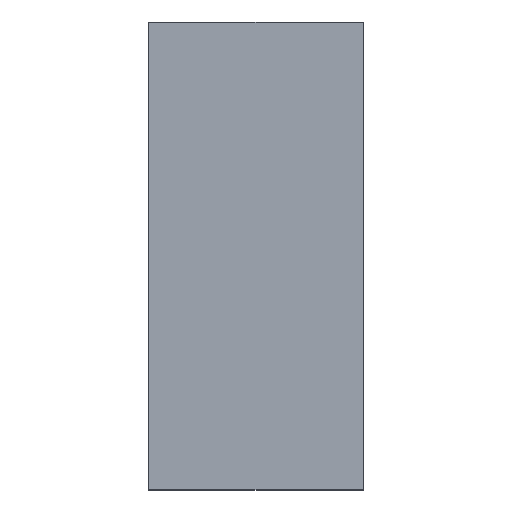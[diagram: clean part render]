
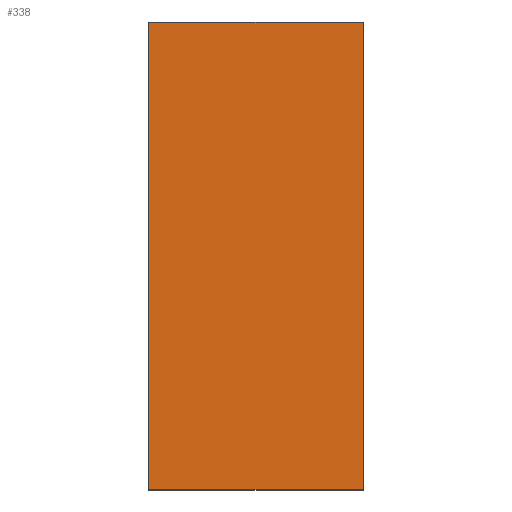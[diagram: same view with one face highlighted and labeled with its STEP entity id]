
A CAD part, top view. The second image highlights one B-rep face of the part: STEP entity #338.
In plain terms, the highlighted planar face has unit normal (0, 0, 1).
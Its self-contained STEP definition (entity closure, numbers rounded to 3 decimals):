
#24 = VERTEX_POINT('',#25);
#25 = CARTESIAN_POINT('',(-70.,-79.,-116.));
#32 = PLANE('',#33);
#33 = AXIS2_PLACEMENT_3D('',#34,#35,#36);
#34 = CARTESIAN_POINT('',(-70.,-79.,-122.));
#35 = DIRECTION('',(1.,0.,0.));
#36 = DIRECTION('',(0.,0.,1.));
#44 = PLANE('',#45);
#45 = AXIS2_PLACEMENT_3D('',#46,#47,#48);
#46 = CARTESIAN_POINT('',(-70.,-79.,-122.));
#47 = DIRECTION('',(0.,1.,0.));
#48 = DIRECTION('',(0.,0.,1.));
#85 = VERTEX_POINT('',#86);
#86 = CARTESIAN_POINT('',(-70.,227.,-116.));
#100 = PLANE('',#101);
#101 = AXIS2_PLACEMENT_3D('',#102,#103,#104);
#102 = CARTESIAN_POINT('',(-70.,227.,-122.));
#103 = DIRECTION('',(0.,1.,0.));
#104 = DIRECTION('',(0.,0.,1.));
#112 = EDGE_CURVE('',#24,#85,#113,.T.);
#113 = SURFACE_CURVE('',#114,(#118,#125),.PCURVE_S1.);
#114 = LINE('',#115,#116);
#115 = CARTESIAN_POINT('',(-70.,-79.,-116.));
#116 = VECTOR('',#117,1.);
#117 = DIRECTION('',(0.,1.,0.));
#118 = PCURVE('',#32,#119);
#119 = DEFINITIONAL_REPRESENTATION('',(#120),#124);
#120 = LINE('',#121,#122);
#121 = CARTESIAN_POINT('',(6.,0.));
#122 = VECTOR('',#123,1.);
#123 = DIRECTION('',(0.,-1.));
#124 = ( GEOMETRIC_REPRESENTATION_CONTEXT(2) 
PARAMETRIC_REPRESENTATION_CONTEXT() REPRESENTATION_CONTEXT('2D SPACE',''
  ) );
#125 = PCURVE('',#126,#131);
#126 = PLANE('',#127);
#127 = AXIS2_PLACEMENT_3D('',#128,#129,#130);
#128 = CARTESIAN_POINT('',(-70.,-79.,-116.));
#129 = DIRECTION('',(0.,0.,1.));
#130 = DIRECTION('',(1.,0.,0.));
#131 = DEFINITIONAL_REPRESENTATION('',(#132),#136);
#132 = LINE('',#133,#134);
#133 = CARTESIAN_POINT('',(0.,0.));
#134 = VECTOR('',#135,1.);
#135 = DIRECTION('',(0.,1.));
#136 = ( GEOMETRIC_REPRESENTATION_CONTEXT(2) 
PARAMETRIC_REPRESENTATION_CONTEXT() REPRESENTATION_CONTEXT('2D SPACE',''
  ) );
#144 = VERTEX_POINT('',#145);
#145 = CARTESIAN_POINT('',(70.,-79.,-116.));
#152 = PLANE('',#153);
#153 = AXIS2_PLACEMENT_3D('',#154,#155,#156);
#154 = CARTESIAN_POINT('',(70.,-79.,-122.));
#155 = DIRECTION('',(1.,0.,0.));
#156 = DIRECTION('',(0.,0.,1.));
#195 = VERTEX_POINT('',#196);
#196 = CARTESIAN_POINT('',(70.,227.,-116.));
#217 = EDGE_CURVE('',#144,#195,#218,.T.);
#218 = SURFACE_CURVE('',#219,(#223,#230),.PCURVE_S1.);
#219 = LINE('',#220,#221);
#220 = CARTESIAN_POINT('',(70.,-79.,-116.));
#221 = VECTOR('',#222,1.);
#222 = DIRECTION('',(0.,1.,0.));
#223 = PCURVE('',#152,#224);
#224 = DEFINITIONAL_REPRESENTATION('',(#225),#229);
#225 = LINE('',#226,#227);
#226 = CARTESIAN_POINT('',(6.,0.));
#227 = VECTOR('',#228,1.);
#228 = DIRECTION('',(0.,-1.));
#229 = ( GEOMETRIC_REPRESENTATION_CONTEXT(2) 
PARAMETRIC_REPRESENTATION_CONTEXT() REPRESENTATION_CONTEXT('2D SPACE',''
  ) );
#230 = PCURVE('',#126,#231);
#231 = DEFINITIONAL_REPRESENTATION('',(#232),#236);
#232 = LINE('',#233,#234);
#233 = CARTESIAN_POINT('',(140.,0.));
#234 = VECTOR('',#235,1.);
#235 = DIRECTION('',(0.,1.));
#236 = ( GEOMETRIC_REPRESENTATION_CONTEXT(2) 
PARAMETRIC_REPRESENTATION_CONTEXT() REPRESENTATION_CONTEXT('2D SPACE',''
  ) );
#263 = EDGE_CURVE('',#24,#144,#264,.T.);
#264 = SURFACE_CURVE('',#265,(#269,#276),.PCURVE_S1.);
#265 = LINE('',#266,#267);
#266 = CARTESIAN_POINT('',(-70.,-79.,-116.));
#267 = VECTOR('',#268,1.);
#268 = DIRECTION('',(1.,0.,0.));
#269 = PCURVE('',#44,#270);
#270 = DEFINITIONAL_REPRESENTATION('',(#271),#275);
#271 = LINE('',#272,#273);
#272 = CARTESIAN_POINT('',(6.,0.));
#273 = VECTOR('',#274,1.);
#274 = DIRECTION('',(0.,1.));
#275 = ( GEOMETRIC_REPRESENTATION_CONTEXT(2) 
PARAMETRIC_REPRESENTATION_CONTEXT() REPRESENTATION_CONTEXT('2D SPACE',''
  ) );
#276 = PCURVE('',#126,#277);
#277 = DEFINITIONAL_REPRESENTATION('',(#278),#282);
#278 = LINE('',#279,#280);
#279 = CARTESIAN_POINT('',(0.,0.));
#280 = VECTOR('',#281,1.);
#281 = DIRECTION('',(1.,0.));
#282 = ( GEOMETRIC_REPRESENTATION_CONTEXT(2) 
PARAMETRIC_REPRESENTATION_CONTEXT() REPRESENTATION_CONTEXT('2D SPACE',''
  ) );
#310 = EDGE_CURVE('',#85,#195,#311,.T.);
#311 = SURFACE_CURVE('',#312,(#316,#323),.PCURVE_S1.);
#312 = LINE('',#313,#314);
#313 = CARTESIAN_POINT('',(-70.,227.,-116.));
#314 = VECTOR('',#315,1.);
#315 = DIRECTION('',(1.,0.,0.));
#316 = PCURVE('',#100,#317);
#317 = DEFINITIONAL_REPRESENTATION('',(#318),#322);
#318 = LINE('',#319,#320);
#319 = CARTESIAN_POINT('',(6.,0.));
#320 = VECTOR('',#321,1.);
#321 = DIRECTION('',(0.,1.));
#322 = ( GEOMETRIC_REPRESENTATION_CONTEXT(2) 
PARAMETRIC_REPRESENTATION_CONTEXT() REPRESENTATION_CONTEXT('2D SPACE',''
  ) );
#323 = PCURVE('',#126,#324);
#324 = DEFINITIONAL_REPRESENTATION('',(#325),#329);
#325 = LINE('',#326,#327);
#326 = CARTESIAN_POINT('',(0.,306.));
#327 = VECTOR('',#328,1.);
#328 = DIRECTION('',(1.,0.));
#329 = ( GEOMETRIC_REPRESENTATION_CONTEXT(2) 
PARAMETRIC_REPRESENTATION_CONTEXT() REPRESENTATION_CONTEXT('2D SPACE',''
  ) );
#338 = ADVANCED_FACE('',(#339),#126,.T.);
#339 = FACE_BOUND('',#340,.T.);
#340 = EDGE_LOOP('',(#341,#342,#343,#344));
#341 = ORIENTED_EDGE('',*,*,#112,.F.);
#342 = ORIENTED_EDGE('',*,*,#263,.T.);
#343 = ORIENTED_EDGE('',*,*,#217,.T.);
#344 = ORIENTED_EDGE('',*,*,#310,.F.);
